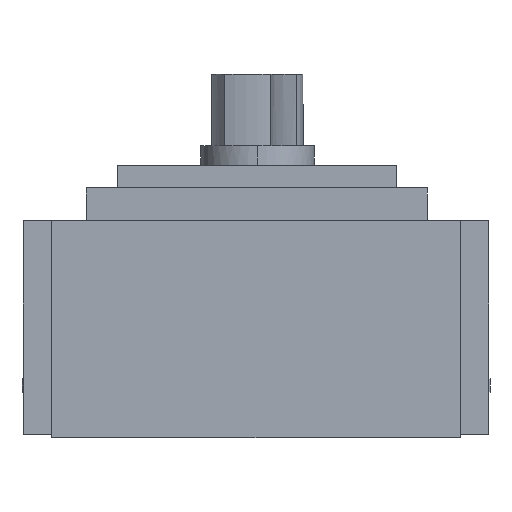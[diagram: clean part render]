
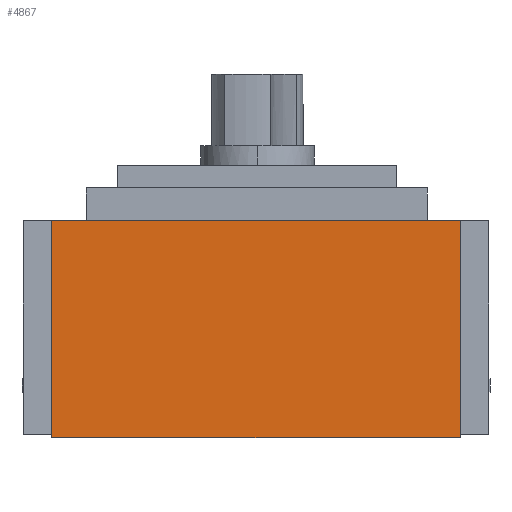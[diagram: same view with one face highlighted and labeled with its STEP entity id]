
A CAD part, left-side view. The second image highlights one B-rep face of the part: STEP entity #4867.
In plain terms, the highlighted planar face has unit normal (-1, 0, 0).
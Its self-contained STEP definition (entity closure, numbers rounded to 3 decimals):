
#669=DIRECTION('',(0.,1.,0.));
#670=VECTOR('',#669,180.);
#671=CARTESIAN_POINT('',(-92.4,-90.,-47.75));
#672=LINE('',#671,#670);
#673=DIRECTION('',(0.,0.,-1.));
#674=VECTOR('',#673,95.5);
#675=CARTESIAN_POINT('',(-92.4,-90.,47.75));
#676=LINE('',#675,#674);
#677=DIRECTION('',(0.,0.,-1.));
#678=VECTOR('',#677,95.5);
#679=CARTESIAN_POINT('',(-92.4,90.,47.75));
#680=LINE('',#679,#678);
#1248=DIRECTION('',(0.,1.,0.));
#1249=VECTOR('',#1248,180.);
#1250=CARTESIAN_POINT('',(-92.4,-90.,47.75));
#1251=LINE('',#1250,#1249);
#3209=CARTESIAN_POINT('',(-92.4,90.,-47.75));
#3210=VERTEX_POINT('',#3209);
#3211=CARTESIAN_POINT('',(-92.4,-90.,-47.75));
#3212=VERTEX_POINT('',#3211);
#3455=CARTESIAN_POINT('',(-92.4,-90.,47.75));
#3456=VERTEX_POINT('',#3455);
#3457=CARTESIAN_POINT('',(-92.4,90.,47.75));
#3458=VERTEX_POINT('',#3457);
#4854=CARTESIAN_POINT('',(-92.4,90.,-47.75));
#4855=DIRECTION('',(-1.,0.,0.));
#4856=DIRECTION('',(0.,-1.,0.));
#4857=AXIS2_PLACEMENT_3D('',#4854,#4855,#4856);
#4858=PLANE('',#4857);
#4859=ORIENTED_EDGE('',*,*,#4218,.T.);
#4861=ORIENTED_EDGE('',*,*,#4860,.F.);
#4863=ORIENTED_EDGE('',*,*,#4862,.F.);
#4864=ORIENTED_EDGE('',*,*,#4796,.T.);
#4865=EDGE_LOOP('',(#4859,#4861,#4863,#4864));
#4866=FACE_OUTER_BOUND('',#4865,.F.);
#4218=EDGE_CURVE('',#3212,#3210,#672,.T.);
#4796=EDGE_CURVE('',#3456,#3212,#676,.T.);
#4860=EDGE_CURVE('',#3458,#3210,#680,.T.);
#4862=EDGE_CURVE('',#3456,#3458,#1251,.T.);
#4867=ADVANCED_FACE('',(#4866),#4858,.T.);
